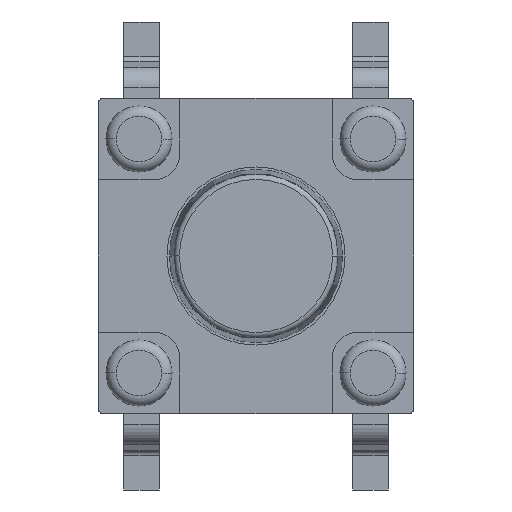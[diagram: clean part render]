
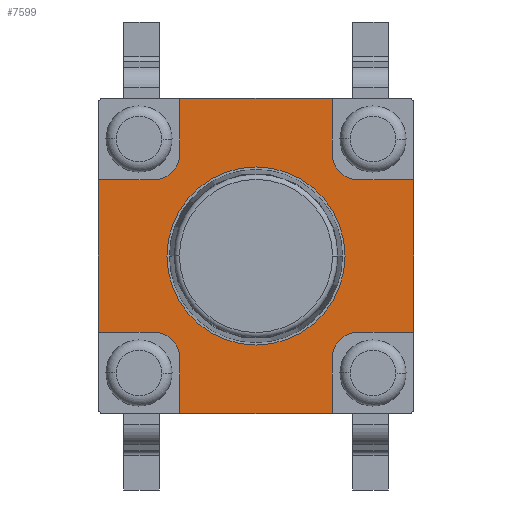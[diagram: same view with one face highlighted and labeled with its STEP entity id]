
A CAD part, front view. The second image highlights one B-rep face of the part: STEP entity #7599.
In plain terms, the highlighted planar face has unit normal (0, -1, 0).
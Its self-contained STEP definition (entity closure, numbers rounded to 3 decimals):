
#6414=CARTESIAN_POINT('',(0.,-1.4,0.));
#6415=DIRECTION('',(0.,-1.,0.));
#6416=DIRECTION('',(-1.,0.,0.));
#6417=AXIS2_PLACEMENT_3D('',#6414,#6415,#6416);
#6422=CARTESIAN_POINT('',(0.,-1.4,0.));
#6423=DIRECTION('',(0.,-1.,0.));
#6424=DIRECTION('',(1.,0.,0.));
#6425=AXIS2_PLACEMENT_3D('',#6422,#6423,#6424);
#6430=DIRECTION('',(0.,0.,1.));
#6431=VECTOR('',#6430,1.1);
#6432=CARTESIAN_POINT('',(-1.5,-1.4,-3.1));
#6433=LINE('',#6432,#6431);
#6437=DIRECTION('',(1.,0.,0.));
#6438=VECTOR('',#6437,1.1);
#6439=CARTESIAN_POINT('',(-3.1,-1.4,-1.5));
#6440=LINE('',#6439,#6438);
#6444=DIRECTION('',(0.,0.,1.));
#6445=VECTOR('',#6444,3.);
#6446=CARTESIAN_POINT('',(-3.1,-1.4,-1.5));
#6447=LINE('',#6446,#6445);
#6451=DIRECTION('',(1.,0.,0.));
#6452=VECTOR('',#6451,1.1);
#6453=CARTESIAN_POINT('',(-3.1,-1.4,1.5));
#6454=LINE('',#6453,#6452);
#6458=DIRECTION('',(0.,0.,-1.));
#6459=VECTOR('',#6458,1.1);
#6460=CARTESIAN_POINT('',(-1.5,-1.4,3.1));
#6461=LINE('',#6460,#6459);
#6465=DIRECTION('',(1.,0.,0.));
#6466=VECTOR('',#6465,3.);
#6467=CARTESIAN_POINT('',(-1.5,-1.4,3.1));
#6468=LINE('',#6467,#6466);
#6472=DIRECTION('',(0.,0.,-1.));
#6473=VECTOR('',#6472,1.1);
#6474=CARTESIAN_POINT('',(1.5,-1.4,3.1));
#6475=LINE('',#6474,#6473);
#6479=DIRECTION('',(-1.,0.,0.));
#6480=VECTOR('',#6479,1.1);
#6481=CARTESIAN_POINT('',(3.1,-1.4,1.5));
#6482=LINE('',#6481,#6480);
#6486=DIRECTION('',(0.,0.,-1.));
#6487=VECTOR('',#6486,3.);
#6488=CARTESIAN_POINT('',(3.1,-1.4,1.5));
#6489=LINE('',#6488,#6487);
#6493=DIRECTION('',(-1.,0.,0.));
#6494=VECTOR('',#6493,1.1);
#6495=CARTESIAN_POINT('',(3.1,-1.4,-1.5));
#6496=LINE('',#6495,#6494);
#6500=DIRECTION('',(0.,0.,1.));
#6501=VECTOR('',#6500,1.1);
#6502=CARTESIAN_POINT('',(1.5,-1.4,-3.1));
#6503=LINE('',#6502,#6501);
#6507=DIRECTION('',(-1.,0.,0.));
#6508=VECTOR('',#6507,3.);
#6509=CARTESIAN_POINT('',(1.5,-1.4,-3.1));
#6510=LINE('',#6509,#6508);
#6521=CARTESIAN_POINT('',(-2.,-1.4,-2.));
#6522=DIRECTION('',(0.,1.,0.));
#6523=DIRECTION('',(0.,0.,1.));
#6524=AXIS2_PLACEMENT_3D('',#6521,#6522,#6523);
#6818=CARTESIAN_POINT('',(2.,-1.4,-2.));
#6819=DIRECTION('',(0.,1.,0.));
#6820=DIRECTION('',(-1.,0.,0.));
#6821=AXIS2_PLACEMENT_3D('',#6818,#6819,#6820);
#6882=CARTESIAN_POINT('',(2.,-1.4,2.));
#6883=DIRECTION('',(0.,1.,0.));
#6884=DIRECTION('',(0.,0.,-1.));
#6885=AXIS2_PLACEMENT_3D('',#6882,#6883,#6884);
#6988=CARTESIAN_POINT('',(-2.,-1.4,2.));
#6989=DIRECTION('',(0.,1.,0.));
#6990=DIRECTION('',(1.,0.,0.));
#6991=AXIS2_PLACEMENT_3D('',#6988,#6989,#6990);
#7238=CARTESIAN_POINT('',(-1.75,-1.4,0.));
#7239=CARTESIAN_POINT('',(1.75,-1.4,0.));
#7240=VERTEX_POINT('',#7238);
#7241=VERTEX_POINT('',#7239);
#7338=CARTESIAN_POINT('',(1.5,-1.4,3.1));
#7340=VERTEX_POINT('',#7338);
#7342=CARTESIAN_POINT('',(-1.5,-1.4,3.1));
#7344=VERTEX_POINT('',#7342);
#7346=CARTESIAN_POINT('',(3.1,-1.4,1.5));
#7348=VERTEX_POINT('',#7346);
#7350=CARTESIAN_POINT('',(3.1,-1.4,-1.5));
#7352=VERTEX_POINT('',#7350);
#7354=CARTESIAN_POINT('',(1.5,-1.4,-3.1));
#7356=VERTEX_POINT('',#7354);
#7358=CARTESIAN_POINT('',(-1.5,-1.4,-3.1));
#7360=VERTEX_POINT('',#7358);
#7362=CARTESIAN_POINT('',(-3.1,-1.4,1.5));
#7364=VERTEX_POINT('',#7362);
#7366=CARTESIAN_POINT('',(-3.1,-1.4,-1.5));
#7368=VERTEX_POINT('',#7366);
#7374=CARTESIAN_POINT('',(1.5,-1.4,-2.));
#7375=VERTEX_POINT('',#7374);
#7376=CARTESIAN_POINT('',(2.,-1.4,-1.5));
#7377=VERTEX_POINT('',#7376);
#7382=CARTESIAN_POINT('',(-2.,-1.4,-1.5));
#7383=VERTEX_POINT('',#7382);
#7384=CARTESIAN_POINT('',(-1.5,-1.4,-2.));
#7385=VERTEX_POINT('',#7384);
#7390=CARTESIAN_POINT('',(-1.5,-1.4,2.));
#7391=VERTEX_POINT('',#7390);
#7392=CARTESIAN_POINT('',(-2.,-1.4,1.5));
#7393=VERTEX_POINT('',#7392);
#7398=CARTESIAN_POINT('',(2.,-1.4,1.5));
#7399=VERTEX_POINT('',#7398);
#7400=CARTESIAN_POINT('',(1.5,-1.4,2.));
#7401=VERTEX_POINT('',#7400);
#7556=CARTESIAN_POINT('',(0.,-1.4,0.));
#7557=DIRECTION('',(0.,1.,0.));
#7558=DIRECTION('',(-1.,0.,0.));
#7559=AXIS2_PLACEMENT_3D('',#7556,#7557,#7558);
#7560=PLANE('',#7559);
#7562=ORIENTED_EDGE('',*,*,#7561,.T.);
#7564=ORIENTED_EDGE('',*,*,#7563,.F.);
#7566=ORIENTED_EDGE('',*,*,#7565,.F.);
#7568=ORIENTED_EDGE('',*,*,#7567,.T.);
#7570=ORIENTED_EDGE('',*,*,#7569,.T.);
#7572=ORIENTED_EDGE('',*,*,#7571,.F.);
#7574=ORIENTED_EDGE('',*,*,#7573,.F.);
#7576=ORIENTED_EDGE('',*,*,#7575,.T.);
#7578=ORIENTED_EDGE('',*,*,#7577,.T.);
#7580=ORIENTED_EDGE('',*,*,#7579,.F.);
#7582=ORIENTED_EDGE('',*,*,#7581,.F.);
#7584=ORIENTED_EDGE('',*,*,#7583,.T.);
#7586=ORIENTED_EDGE('',*,*,#7585,.T.);
#7588=ORIENTED_EDGE('',*,*,#7587,.F.);
#7590=ORIENTED_EDGE('',*,*,#7589,.F.);
#7592=ORIENTED_EDGE('',*,*,#7591,.T.);
#7593=EDGE_LOOP('',(#7562,#7564,#7566,#7568,#7570,#7572,#7574,#7576,#7578,#7580,
#7582,#7584,#7586,#7588,#7590,#7592));
#7594=FACE_OUTER_BOUND('',#7593,.F.);
#7595=ORIENTED_EDGE('',*,*,#7536,.T.);
#7596=ORIENTED_EDGE('',*,*,#7550,.T.);
#7597=EDGE_LOOP('',(#7595,#7596));
#7598=FACE_BOUND('',#7597,.F.);
#6418=CIRCLE('',#6417,1.75);
#6426=CIRCLE('',#6425,1.75);
#6525=CIRCLE('',#6524,0.5);
#6822=CIRCLE('',#6821,0.5);
#6886=CIRCLE('',#6885,0.5);
#6992=CIRCLE('',#6991,0.5);
#7536=EDGE_CURVE('',#7240,#7241,#6418,.T.);
#7550=EDGE_CURVE('',#7241,#7240,#6426,.T.);
#7561=EDGE_CURVE('',#7360,#7385,#6433,.T.);
#7563=EDGE_CURVE('',#7383,#7385,#6525,.T.);
#7565=EDGE_CURVE('',#7368,#7383,#6440,.T.);
#7567=EDGE_CURVE('',#7368,#7364,#6447,.T.);
#7569=EDGE_CURVE('',#7364,#7393,#6454,.T.);
#7571=EDGE_CURVE('',#7391,#7393,#6992,.T.);
#7573=EDGE_CURVE('',#7344,#7391,#6461,.T.);
#7575=EDGE_CURVE('',#7344,#7340,#6468,.T.);
#7577=EDGE_CURVE('',#7340,#7401,#6475,.T.);
#7579=EDGE_CURVE('',#7399,#7401,#6886,.T.);
#7581=EDGE_CURVE('',#7348,#7399,#6482,.T.);
#7583=EDGE_CURVE('',#7348,#7352,#6489,.T.);
#7585=EDGE_CURVE('',#7352,#7377,#6496,.T.);
#7587=EDGE_CURVE('',#7375,#7377,#6822,.T.);
#7589=EDGE_CURVE('',#7356,#7375,#6503,.T.);
#7591=EDGE_CURVE('',#7356,#7360,#6510,.T.);
#7599=ADVANCED_FACE('',(#7594,#7598),#7560,.F.);
